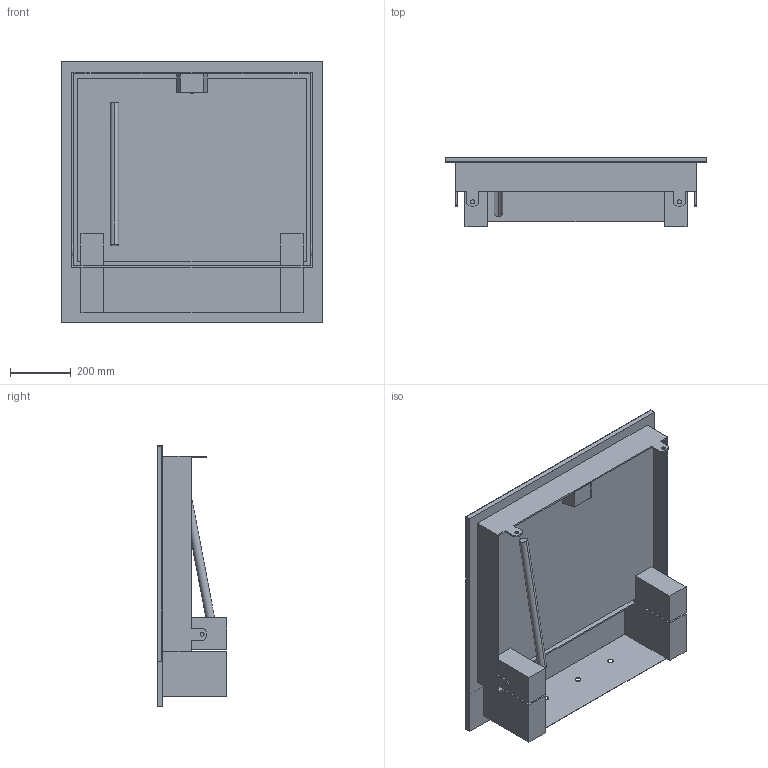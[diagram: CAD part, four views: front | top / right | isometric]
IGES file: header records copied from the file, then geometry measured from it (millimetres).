
Start section:  PTC IGES file: 51498128.igs
Global section: file name: 51498128.igs; native system: Creo Parametric by PTC Inc.; preprocessor: 2019224; author: slc; organization: Unknown; date: 20200617.103001; units: millimetre
Bounding box: 860 x 228 x 856 mm (x, y, z)
Surface area: 3001837.5 mm2 (no closed solid volume)
Topology: 0 solids, 0 shells, 110 faces, 616 edges, 616 vertices
Faces by surface type: bspline 84, revolution 26
